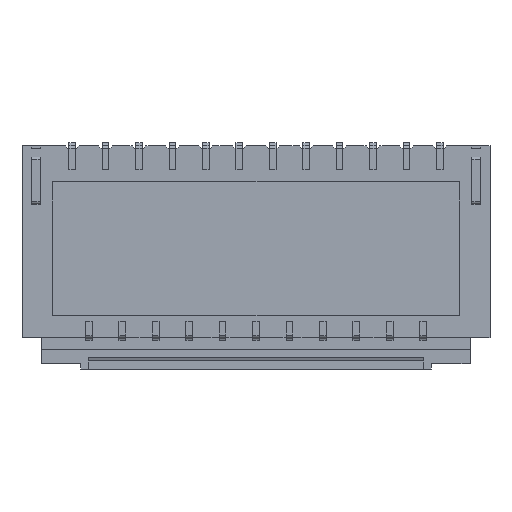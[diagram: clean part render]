
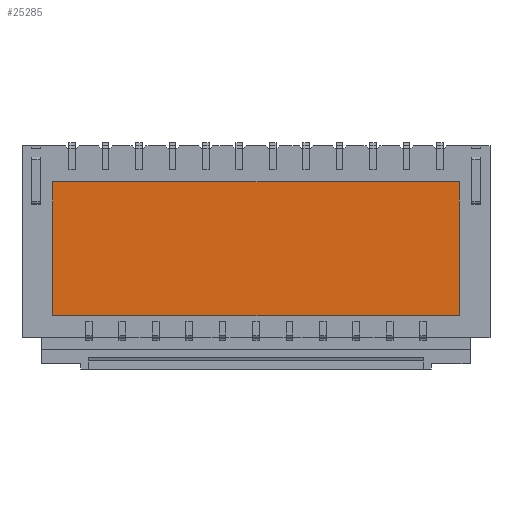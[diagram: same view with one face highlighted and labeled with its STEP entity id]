
A CAD part, front view. The second image highlights one B-rep face of the part: STEP entity #25285.
In plain terms, the highlighted planar face has unit normal (0, -1, 0).
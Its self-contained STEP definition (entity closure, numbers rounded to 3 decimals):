
#438=DIRECTION('',(0.,0.,-1.));
#439=VECTOR('',#438,2.4);
#440=CARTESIAN_POINT('',(10.6,0.005,-0.525));
#441=LINE('',#440,#439);
#442=DIRECTION('',(1.,0.,0.));
#443=VECTOR('',#442,7.3);
#444=CARTESIAN_POINT('',(3.3,0.005,-0.525));
#445=LINE('',#444,#443);
#454=DIRECTION('',(1.,0.,0.));
#455=VECTOR('',#454,7.3);
#456=CARTESIAN_POINT('',(3.3,0.005,-2.925));
#457=LINE('',#456,#455);
#462=DIRECTION('',(0.,0.,-1.));
#463=VECTOR('',#462,2.4);
#464=CARTESIAN_POINT('',(3.3,0.005,-0.525));
#465=LINE('',#464,#463);
#18750=CARTESIAN_POINT('',(10.6,0.005,-0.525));
#18751=VERTEX_POINT('',#18750);
#18752=CARTESIAN_POINT('',(3.3,0.005,-0.525));
#18753=VERTEX_POINT('',#18752);
#18754=CARTESIAN_POINT('',(10.6,0.005,-2.925));
#18755=VERTEX_POINT('',#18754);
#18756=CARTESIAN_POINT('',(3.3,0.005,-2.925));
#18757=VERTEX_POINT('',#18756);
#25272=CARTESIAN_POINT('',(6.95,0.005,-1.725));
#25273=DIRECTION('',(0.,1.,0.));
#25274=DIRECTION('',(0.,0.,-1.));
#25275=AXIS2_PLACEMENT_3D('',#25272,#25273,#25274);
#25276=PLANE('',#25275);
#25277=ORIENTED_EDGE('',*,*,#25239,.T.);
#25279=ORIENTED_EDGE('',*,*,#25278,.F.);
#25281=ORIENTED_EDGE('',*,*,#25280,.F.);
#25282=ORIENTED_EDGE('',*,*,#25257,.T.);
#25283=EDGE_LOOP('',(#25277,#25279,#25281,#25282));
#25284=FACE_OUTER_BOUND('',#25283,.F.);
#25285=ADVANCED_FACE('',(#25284),#25276,.F.);
#25239=EDGE_CURVE('',#18751,#18755,#441,.T.);
#25257=EDGE_CURVE('',#18753,#18751,#445,.T.);
#25278=EDGE_CURVE('',#18757,#18755,#457,.T.);
#25280=EDGE_CURVE('',#18753,#18757,#465,.T.);
